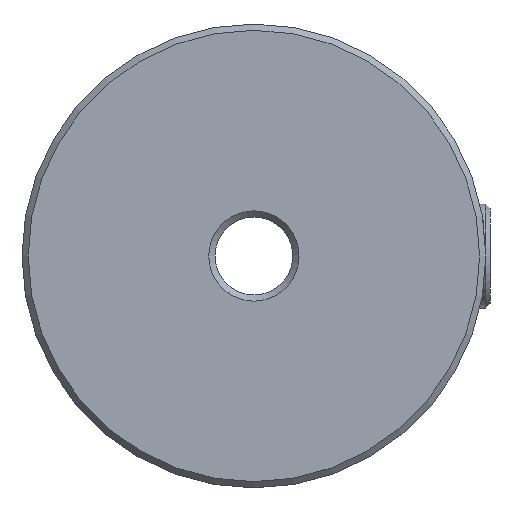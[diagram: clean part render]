
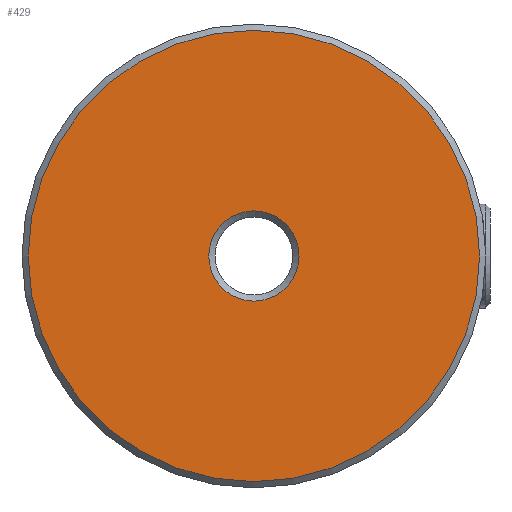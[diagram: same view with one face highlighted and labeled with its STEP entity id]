
A CAD part, front view. The second image highlights one B-rep face of the part: STEP entity #429.
In plain terms, the highlighted planar face has unit normal (0, -1, 0).
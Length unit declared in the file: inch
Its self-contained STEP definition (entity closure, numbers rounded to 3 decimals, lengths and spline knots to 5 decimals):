
#18=FACE_BOUND('',#83,.T.);
#30=CIRCLE('',#480,0.1085);
#31=CIRCLE('',#482,0.5425);
#55=FACE_OUTER_BOUND('',#82,.T.);
#82=EDGE_LOOP('',(#330));
#83=EDGE_LOOP('',(#331));
#202=VERTEX_POINT('',#692);
#203=VERTEX_POINT('',#696);
#250=EDGE_CURVE('',#202,#202,#30,.T.);
#251=EDGE_CURVE('',#203,#203,#31,.T.);
#330=ORIENTED_EDGE('',*,*,#251,.F.);
#331=ORIENTED_EDGE('',*,*,#250,.F.);
#408=PLANE('',#481);
#429=ADVANCED_FACE('',(#55,#18),#408,.T.);
#480=AXIS2_PLACEMENT_3D('',#694,#565,#566);
#481=AXIS2_PLACEMENT_3D('',#695,#567,#568);
#482=AXIS2_PLACEMENT_3D('',#697,#569,#570);
#565=DIRECTION('center_axis',(0.,-1.,0.));
#566=DIRECTION('ref_axis',(0.,0.,1.));
#567=DIRECTION('center_axis',(0.,-1.,0.));
#568=DIRECTION('ref_axis',(0.,0.,-1.));
#569=DIRECTION('center_axis',(0.,1.,0.));
#570=DIRECTION('ref_axis',(0.,0.,1.));
#692=CARTESIAN_POINT('',(0.,0.,-0.1085));
#694=CARTESIAN_POINT('Origin',(0.,0.,0.));
#695=CARTESIAN_POINT('Origin',(0.,0.,-0.0935));
#696=CARTESIAN_POINT('',(0.,0.,-0.5425));
#697=CARTESIAN_POINT('Origin',(0.,0.,0.));
